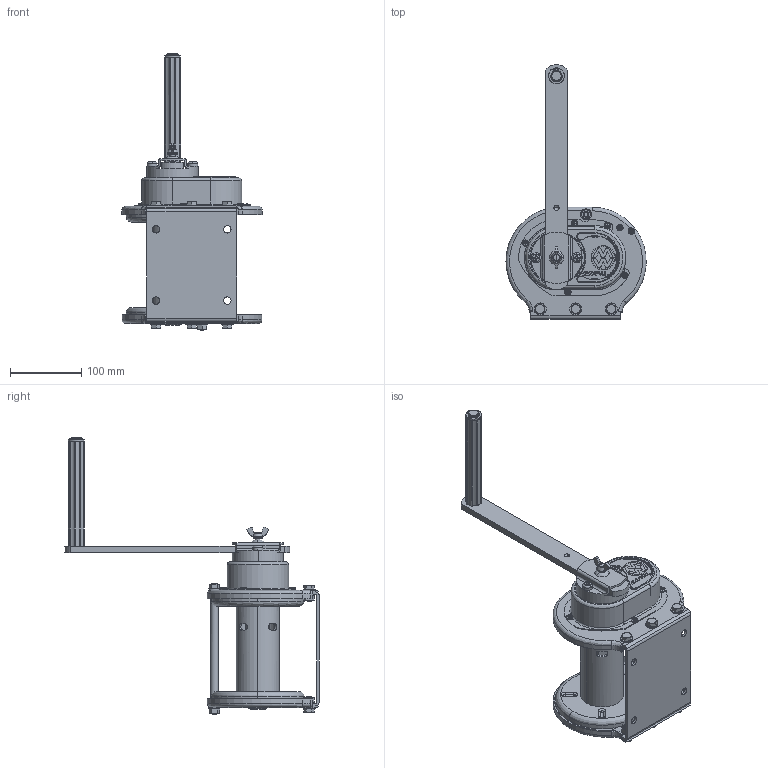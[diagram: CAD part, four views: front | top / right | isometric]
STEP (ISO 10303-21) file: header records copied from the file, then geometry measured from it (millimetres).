
FILE_DESCRIPTION( (''), '2;1');
FILE_NAME ('ST-1-SI.stp','2024-01-09T16:26:47',(''),(''),'spGate 19.8.2 (****-****-****-****)','','');
FILE_SCHEMA (('AUTOMOTIVE_DESIGN'));
Length unit declared in the file: millimetre
Products named in the file (3): Assembly; ST-1-SI-prt0; ST-1-SI-prt1
Assembly tree (2 placements, depth 2):
  Assembly
    ST-1-SI-prt0
    ST-1-SI-prt1
Bounding box: 196.82 x 356.93 x 389.8 mm (x, y, z)
Volume: 972505.2 mm3; surface area: 426481.9 mm2
Topology: 2 solids, 2 shells, 2119 faces, 5501 edges, 3456 vertices
Faces by surface type: plane 1003, cylinder 709, bspline 345, sphere 62
Entity records: 113702 total; most frequent: CARTESIAN_POINT 20299, ORIENTED_EDGE 10878, DIRECTION 10066, COLOUR_RGB 7560, PRESENTATION_STYLE_ASSIGNMENT 7560, STYLED_ITEM 7560, EDGE_CURVE 5439, DRAUGHTING_PRE_DEFINED_CURVE_FONT 5439
